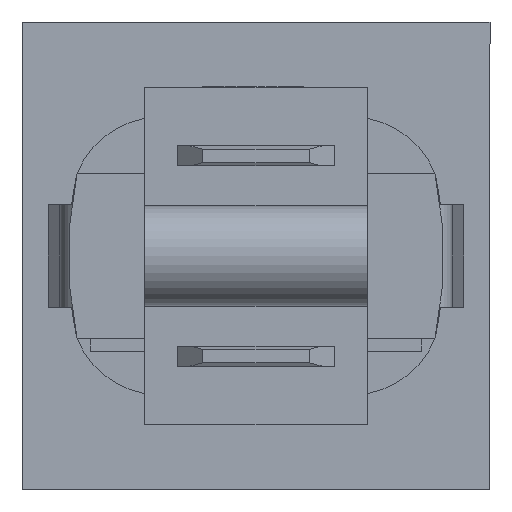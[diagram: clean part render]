
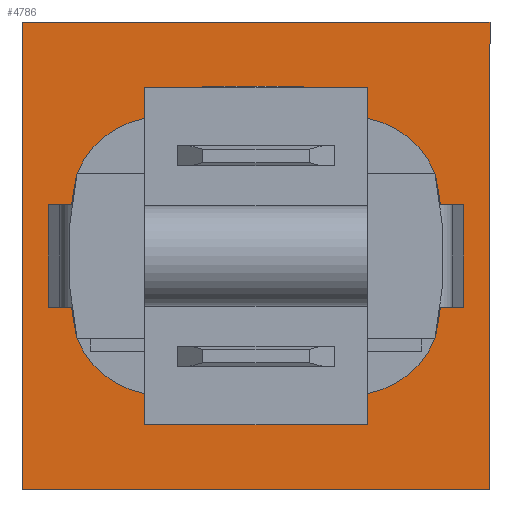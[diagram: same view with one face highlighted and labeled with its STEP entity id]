
A CAD part, front view. The second image highlights one B-rep face of the part: STEP entity #4786.
In plain terms, the highlighted planar face has unit normal (0, -1, 0).
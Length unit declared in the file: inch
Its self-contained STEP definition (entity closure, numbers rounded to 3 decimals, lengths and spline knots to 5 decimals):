
#32=FACE_BOUND('',#759,.T.);
#486=FACE_OUTER_BOUND('',#758,.T.);
#758=EDGE_LOOP('',(#4135,#4136,#4137,#4138));
#759=EDGE_LOOP('',(#4139,#4140,#4141,#4142,#4143,#4144,#4145,#4146,#4147,
#4148,#4149,#4150,#4151,#4152,#4153,#4154,#4155,#4156,#4157,#4158));
#824=CIRCLE('',#5008,0.62205);
#826=CIRCLE('',#5012,0.62205);
#828=CIRCLE('',#5018,0.62205);
#831=CIRCLE('',#5026,0.62205);
#832=CIRCLE('',#5029,0.1427);
#834=CIRCLE('',#5033,0.1427);
#835=CIRCLE('',#5034,0.1427);
#836=CIRCLE('',#5035,0.1427);
#1250=LINE('',#8278,#1747);
#1252=LINE('',#8283,#1749);
#1267=LINE('',#8326,#1764);
#1273=LINE('',#8338,#1770);
#1288=LINE('',#8384,#1785);
#1289=LINE('',#8386,#1786);
#1290=LINE('',#8388,#1787);
#1291=LINE('',#8389,#1788);
#1292=LINE('',#8390,#1789);
#1293=LINE('',#8392,#1790);
#1294=LINE('',#8393,#1791);
#1295=LINE('',#8395,#1792);
#1296=LINE('',#8397,#1793);
#1297=LINE('',#8401,#1794);
#1298=LINE('',#8402,#1795);
#1299=LINE('',#8403,#1796);
#1747=VECTOR('',#5800,0.3937);
#1749=VECTOR('',#5804,0.3937);
#1764=VECTOR('',#5851,0.3937);
#1770=VECTOR('',#5859,0.3937);
#1785=VECTOR('',#5908,0.3937);
#1786=VECTOR('',#5909,0.3937);
#1787=VECTOR('',#5910,0.3937);
#1788=VECTOR('',#5911,0.3937);
#1789=VECTOR('',#5912,0.3937);
#1790=VECTOR('',#5915,0.3937);
#1791=VECTOR('',#5916,0.3937);
#1792=VECTOR('',#5917,0.3937);
#1793=VECTOR('',#5920,0.3937);
#1794=VECTOR('',#5923,0.3937);
#1795=VECTOR('',#5924,0.3937);
#1796=VECTOR('',#5925,0.3937);
#2099=VERTEX_POINT('',#7914);
#2100=VERTEX_POINT('',#7916);
#2193=VERTEX_POINT('',#8203);
#2198=VERTEX_POINT('',#8213);
#2199=VERTEX_POINT('',#8215);
#2204=VERTEX_POINT('',#8225);
#2205=VERTEX_POINT('',#8227);
#2223=VERTEX_POINT('',#8275);
#2224=VERTEX_POINT('',#8280);
#2232=VERTEX_POINT('',#8308);
#2234=VERTEX_POINT('',#8316);
#2235=VERTEX_POINT('',#8322);
#2237=VERTEX_POINT('',#8325);
#2240=VERTEX_POINT('',#8332);
#2242=VERTEX_POINT('',#8336);
#2245=VERTEX_POINT('',#8344);
#2253=VERTEX_POINT('',#8370);
#2255=VERTEX_POINT('',#8382);
#2256=VERTEX_POINT('',#8383);
#2257=VERTEX_POINT('',#8385);
#2258=VERTEX_POINT('',#8387);
#2259=VERTEX_POINT('',#8394);
#2260=VERTEX_POINT('',#8398);
#2261=VERTEX_POINT('',#8400);
#2848=EDGE_CURVE('',#2199,#2223,#1250,.T.);
#2850=EDGE_CURVE('',#2198,#2224,#1252,.T.);
#2864=EDGE_CURVE('',#2224,#2232,#824,.T.);
#2867=EDGE_CURVE('',#2234,#2223,#826,.T.);
#2871=EDGE_CURVE('',#2237,#2235,#1267,.T.);
#2877=EDGE_CURVE('',#2242,#2240,#1273,.T.);
#2881=EDGE_CURVE('',#2235,#2245,#828,.T.);
#2893=EDGE_CURVE('',#2253,#2240,#831,.T.);
#2897=EDGE_CURVE('',#2204,#2234,#832,.T.);
#2899=EDGE_CURVE('',#2255,#2256,#1288,.T.);
#2900=EDGE_CURVE('',#2257,#2255,#1289,.T.);
#2901=EDGE_CURVE('',#2258,#2257,#1290,.T.);
#2902=EDGE_CURVE('',#2256,#2258,#1291,.T.);
#2903=EDGE_CURVE('',#2199,#2198,#1292,.T.);
#2904=EDGE_CURVE('',#2232,#2193,#834,.T.);
#2905=EDGE_CURVE('',#2193,#2100,#1293,.T.);
#2906=EDGE_CURVE('',#2100,#2099,#1294,.T.);
#2907=EDGE_CURVE('',#2099,#2259,#1295,.T.);
#2908=EDGE_CURVE('',#2259,#2253,#835,.T.);
#2909=EDGE_CURVE('',#2242,#2237,#1296,.T.);
#2910=EDGE_CURVE('',#2245,#2260,#836,.T.);
#2911=EDGE_CURVE('',#2260,#2261,#1297,.T.);
#2912=EDGE_CURVE('',#2261,#2205,#1298,.T.);
#2913=EDGE_CURVE('',#2205,#2204,#1299,.T.);
#4135=ORIENTED_EDGE('',*,*,#2899,.F.);
#4136=ORIENTED_EDGE('',*,*,#2900,.F.);
#4137=ORIENTED_EDGE('',*,*,#2901,.F.);
#4138=ORIENTED_EDGE('',*,*,#2902,.F.);
#4139=ORIENTED_EDGE('',*,*,#2897,.T.);
#4140=ORIENTED_EDGE('',*,*,#2867,.T.);
#4141=ORIENTED_EDGE('',*,*,#2848,.F.);
#4142=ORIENTED_EDGE('',*,*,#2903,.T.);
#4143=ORIENTED_EDGE('',*,*,#2850,.T.);
#4144=ORIENTED_EDGE('',*,*,#2864,.T.);
#4145=ORIENTED_EDGE('',*,*,#2904,.T.);
#4146=ORIENTED_EDGE('',*,*,#2905,.T.);
#4147=ORIENTED_EDGE('',*,*,#2906,.T.);
#4148=ORIENTED_EDGE('',*,*,#2907,.T.);
#4149=ORIENTED_EDGE('',*,*,#2908,.T.);
#4150=ORIENTED_EDGE('',*,*,#2893,.T.);
#4151=ORIENTED_EDGE('',*,*,#2877,.F.);
#4152=ORIENTED_EDGE('',*,*,#2909,.T.);
#4153=ORIENTED_EDGE('',*,*,#2871,.T.);
#4154=ORIENTED_EDGE('',*,*,#2881,.T.);
#4155=ORIENTED_EDGE('',*,*,#2910,.T.);
#4156=ORIENTED_EDGE('',*,*,#2911,.T.);
#4157=ORIENTED_EDGE('',*,*,#2912,.T.);
#4158=ORIENTED_EDGE('',*,*,#2913,.T.);
#4479=PLANE('',#5032);
#4786=ADVANCED_FACE('',(#486,#32),#4479,.T.);
#5008=AXIS2_PLACEMENT_3D('',#8310,#5833,#5834);
#5012=AXIS2_PLACEMENT_3D('',#8317,#5842,#5843);
#5018=AXIS2_PLACEMENT_3D('',#8346,#5866,#5867);
#5026=AXIS2_PLACEMENT_3D('',#8371,#5891,#5892);
#5029=AXIS2_PLACEMENT_3D('',#8378,#5900,#5901);
#5032=AXIS2_PLACEMENT_3D('',#8381,#5906,#5907);
#5033=AXIS2_PLACEMENT_3D('',#8391,#5913,#5914);
#5034=AXIS2_PLACEMENT_3D('',#8396,#5918,#5919);
#5035=AXIS2_PLACEMENT_3D('',#8399,#5921,#5922);
#5800=DIRECTION('',(-1.,0.,0.));
#5804=DIRECTION('',(-1.,0.,0.));
#5833=DIRECTION('center_axis',(0.,1.,0.));
#5834=DIRECTION('ref_axis',(-0.978,0.,0.209));
#5842=DIRECTION('center_axis',(0.,1.,0.));
#5843=DIRECTION('ref_axis',(-0.978,0.,0.209));
#5851=DIRECTION('',(1.,0.,0.));
#5859=DIRECTION('',(1.,0.,0.));
#5866=DIRECTION('center_axis',(0.,1.,0.));
#5867=DIRECTION('ref_axis',(0.978,0.,-0.209));
#5891=DIRECTION('center_axis',(0.,1.,0.));
#5892=DIRECTION('ref_axis',(0.978,0.,-0.209));
#5900=DIRECTION('center_axis',(0.,1.,0.));
#5901=DIRECTION('ref_axis',(-0.926,0.,-0.377));
#5906=DIRECTION('center_axis',(0.,-1.,0.));
#5907=DIRECTION('ref_axis',(0.,0.,-1.));
#5908=DIRECTION('',(1.,0.,0.));
#5909=DIRECTION('',(0.,0.,1.));
#5910=DIRECTION('',(-1.,0.,0.));
#5911=DIRECTION('',(0.,0.,-1.));
#5912=DIRECTION('',(0.,0.,1.));
#5913=DIRECTION('center_axis',(0.,1.,0.));
#5914=DIRECTION('ref_axis',(-0.926,0.,0.377));
#5915=DIRECTION('',(0.,0.,1.));
#5916=DIRECTION('',(1.,0.,0.));
#5917=DIRECTION('',(0.,0.,-1.));
#5918=DIRECTION('center_axis',(0.,1.,0.));
#5919=DIRECTION('ref_axis',(0.926,0.,0.377));
#5920=DIRECTION('',(0.,0.,-1.));
#5921=DIRECTION('center_axis',(0.,1.,0.));
#5922=DIRECTION('ref_axis',(0.926,0.,-0.377));
#5923=DIRECTION('',(0.,0.,-1.));
#5924=DIRECTION('',(-1.,0.,0.));
#5925=DIRECTION('',(0.,0.,1.));
#7914=CARTESIAN_POINT('',(0.175,1.55512,0.26575));
#7916=CARTESIAN_POINT('',(-0.175,1.55512,0.26575));
#8203=CARTESIAN_POINT('',(-0.175,1.55512,0.21654));
#8213=CARTESIAN_POINT('',(-0.175,1.55512,0.08268));
#8215=CARTESIAN_POINT('',(-0.175,1.55512,-0.08268));
#8225=CARTESIAN_POINT('',(-0.175,1.55512,-0.21654));
#8227=CARTESIAN_POINT('',(-0.175,1.55512,-0.26575));
#8275=CARTESIAN_POINT('',(-0.28976,1.55512,-0.08268));
#8278=CARTESIAN_POINT('',(-0.175,1.55512,-0.08268));
#8280=CARTESIAN_POINT('',(-0.28976,1.55512,0.08268));
#8283=CARTESIAN_POINT('',(-0.175,1.55512,0.08268));
#8308=CARTESIAN_POINT('',(-0.28156,1.55512,0.12992));
#8310=CARTESIAN_POINT('Origin',(0.32677,1.55512,0.));
#8316=CARTESIAN_POINT('',(-0.28156,1.55512,-0.12992));
#8317=CARTESIAN_POINT('Origin',(0.32677,1.55512,0.));
#8322=CARTESIAN_POINT('',(0.28976,1.55512,-0.08268));
#8325=CARTESIAN_POINT('',(0.175,1.55512,-0.08268));
#8326=CARTESIAN_POINT('',(0.175,1.55512,-0.08268));
#8332=CARTESIAN_POINT('',(0.28976,1.55512,0.08268));
#8336=CARTESIAN_POINT('',(0.175,1.55512,0.08268));
#8338=CARTESIAN_POINT('',(0.175,1.55512,0.08268));
#8344=CARTESIAN_POINT('',(0.28156,1.55512,-0.12992));
#8346=CARTESIAN_POINT('Origin',(-0.32677,1.55512,0.));
#8370=CARTESIAN_POINT('',(0.28156,1.55512,0.12992));
#8371=CARTESIAN_POINT('Origin',(-0.32677,1.55512,0.));
#8378=CARTESIAN_POINT('Origin',(-0.14937,1.55512,-0.07615));
#8381=CARTESIAN_POINT('Origin',(0.,1.55512,0.));
#8382=CARTESIAN_POINT('',(-0.36811,1.55512,0.36811));
#8383=CARTESIAN_POINT('',(0.36811,1.55512,0.36811));
#8384=CARTESIAN_POINT('',(-0.36811,1.55512,0.36811));
#8385=CARTESIAN_POINT('',(-0.36811,1.55512,-0.36811));
#8386=CARTESIAN_POINT('',(-0.36811,1.55512,-0.36811));
#8387=CARTESIAN_POINT('',(0.36811,1.55512,-0.36811));
#8388=CARTESIAN_POINT('',(0.36811,1.55512,-0.36811));
#8389=CARTESIAN_POINT('',(0.36811,1.55512,0.36811));
#8390=CARTESIAN_POINT('',(-0.175,1.55512,-0.26575));
#8391=CARTESIAN_POINT('Origin',(-0.14937,1.55512,0.07615));
#8392=CARTESIAN_POINT('',(-0.175,1.55512,-0.26575));
#8393=CARTESIAN_POINT('',(-0.175,1.55512,0.26575));
#8394=CARTESIAN_POINT('',(0.175,1.55512,0.21654));
#8395=CARTESIAN_POINT('',(0.175,1.55512,0.26575));
#8396=CARTESIAN_POINT('Origin',(0.14937,1.55512,0.07615));
#8397=CARTESIAN_POINT('',(0.175,1.55512,0.26575));
#8398=CARTESIAN_POINT('',(0.175,1.55512,-0.21654));
#8399=CARTESIAN_POINT('Origin',(0.14937,1.55512,-0.07615));
#8400=CARTESIAN_POINT('',(0.175,1.55512,-0.26575));
#8401=CARTESIAN_POINT('',(0.175,1.55512,0.26575));
#8402=CARTESIAN_POINT('',(0.175,1.55512,-0.26575));
#8403=CARTESIAN_POINT('',(-0.175,1.55512,-0.26575));
